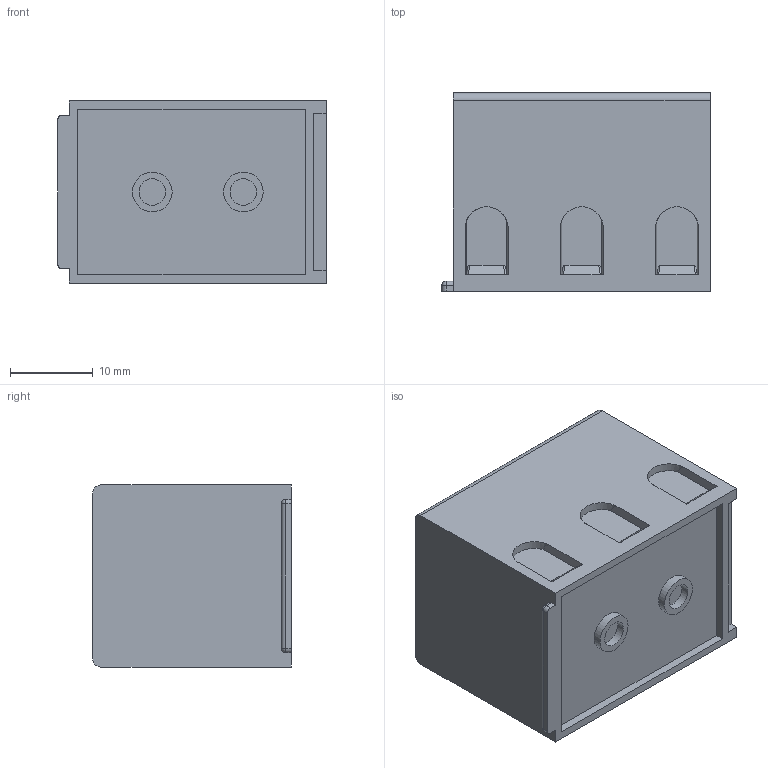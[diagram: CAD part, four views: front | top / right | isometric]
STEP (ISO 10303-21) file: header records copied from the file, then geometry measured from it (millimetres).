
FILE_DESCRIPTION((''),'2;1');
FILE_NAME('3PIN_SW0001','2019-06-06T',('zhenbing.lai'),(''),'CREO PARAMETRIC BY PTC INC, 2016260','CREO PARAMETRIC BY PTC INC, 2016260','');
FILE_SCHEMA(('CONFIG_CONTROL_DESIGN'));
Length unit declared in the file: millimetre
Products named in the file (1): 3PIN_SW0001
Bounding box: 32.4 x 24 x 22 mm (x, y, z)
Volume: 13856.6 mm3; surface area: 7097.2 mm2
Topology: 1 solids, 21 shells, 637 faces, 1781 edges, 1186 vertices
Faces by surface type: plane 422, cylinder 165, cone 24, torus 24, sphere 2
Entity records: 21633 total; most frequent: CARTESIAN_POINT 5334, ORIENTED_EDGE 3558, DIRECTION 3179, EDGE_CURVE 1779, VERTEX_POINT 1186, AXIS2_PLACEMENT_3D 1071, VECTOR 1037, LINE 1037
